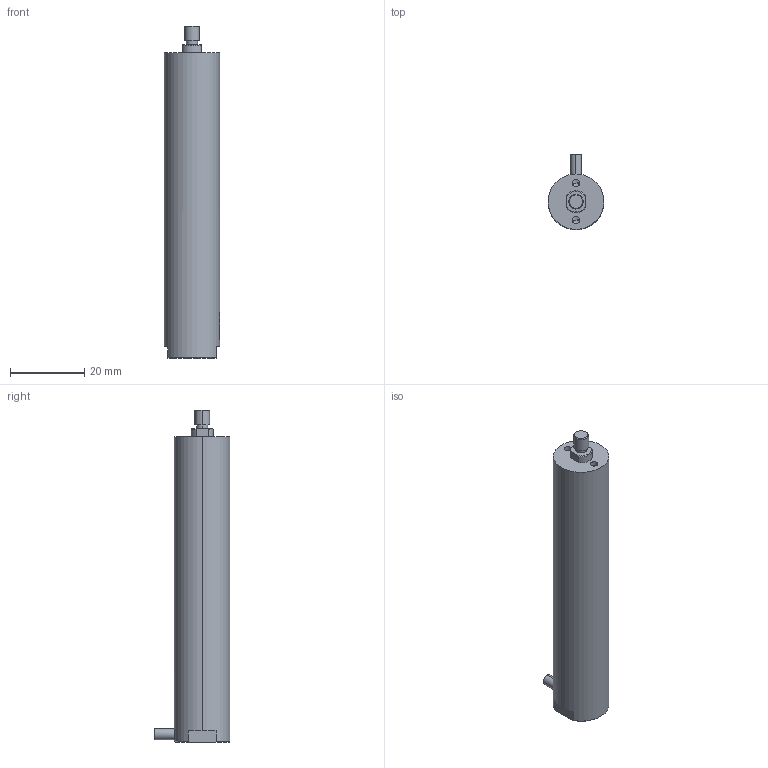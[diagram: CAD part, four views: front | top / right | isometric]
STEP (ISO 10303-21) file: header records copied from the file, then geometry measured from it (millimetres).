
FILE_DESCRIPTION (( 'STEP AP203' ), '1' );
FILE_NAME ('80VS15俋蹟恇.STEP', '2024-11-30T06:22:13', ( 'daohangxitong.com' ), ( 'daohangxitong.com' ), 'SwSTEP 2.0', 'SolidWorks 2016', '' );
FILE_SCHEMA (( 'CONFIG_CONTROL_DESIGN' ));
Products named in the file (1): 80VS15俋蹟恇
Bounding box: 15 x 20.5 x 89.7 mm (x, y, z)
Volume: 14645.9 mm3; surface area: 4466.7 mm2
Topology: 1 solids, 1 shells, 961 faces, 2756 edges, 1831 vertices
Faces by surface type: bspline 841, cylinder 54, plane 52, cone 14
Entity records: 51861 total; most frequent: CARTESIAN_POINT 34202, ORIENTED_EDGE 5500, EDGE_CURVE 2750, B_SPLINE_CURVE_WITH_KNOTS 2577, VERTEX_POINT 1831, EDGE_LOOP 1001, ADVANCED_FACE 961, FACE_OUTER_BOUND 961
